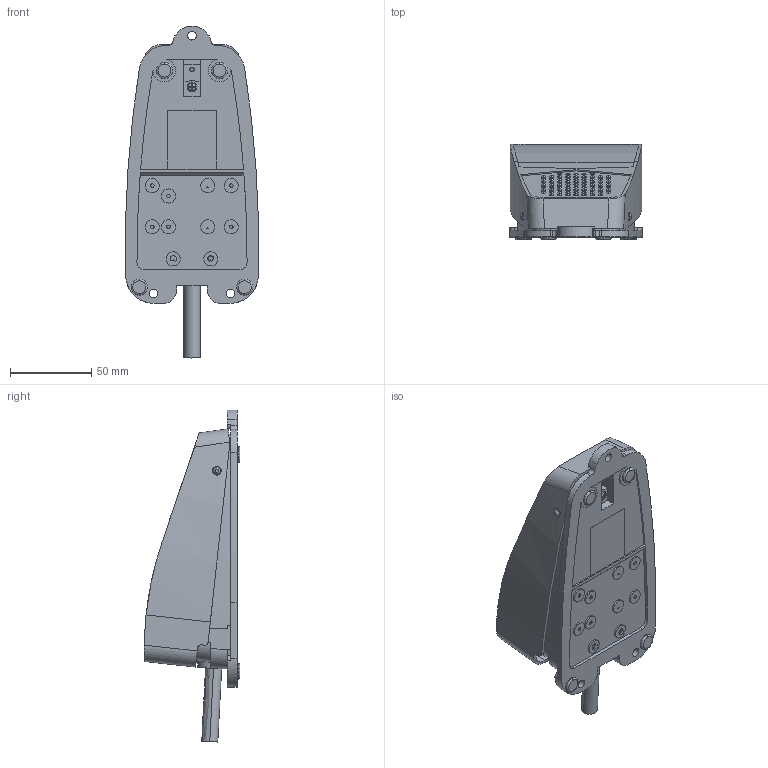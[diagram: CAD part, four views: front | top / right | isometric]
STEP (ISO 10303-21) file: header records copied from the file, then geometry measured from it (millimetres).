
FILE_DESCRIPTION((''),'2;1');
FILE_NAME('1TFS_ASM','2016-06-24T',('Administrator'),(''),'PRO/ENGINEER BY PARAMETRIC TECHNOLOGY CORPORATION, 2012360','PRO/ENGINEER BY PARAMETRIC TECHNOLOGY CORPORATION, 2012360','');
FILE_SCHEMA(('CONFIG_CONTROL_DESIGN'));
Length unit declared in the file: millimetre
Products named in the file (1): 1TFS_ASM
Bounding box: 81.8 x 58.81 x 204.69 mm (x, y, z)
Volume: 204236 mm3; surface area: 104250.9 mm2
Topology: 1 solids, 8 shells, 741 faces, 2033 edges, 1275 vertices
Faces by surface type: plane 288, cylinder 236, sphere 155, torus 23, cone 20, bspline 14, extrusion 5
Entity records: 24679 total; most frequent: CARTESIAN_POINT 6287, DIRECTION 3875, ORIENTED_EDGE 3766, EDGE_CURVE 1883, AXIS2_PLACEMENT_3D 1532, VERTEX_POINT 1275, EDGE_LOOP 910, VECTOR 811
